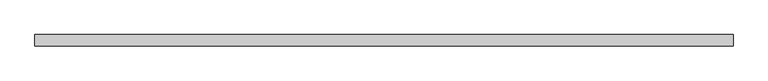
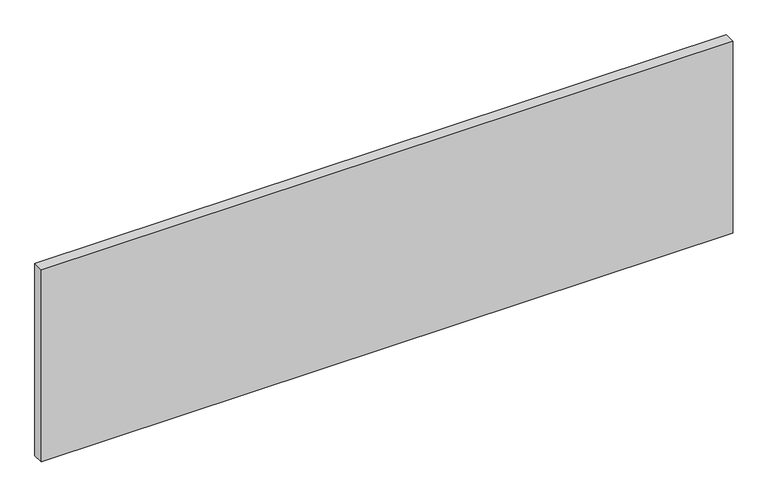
"""IFC4 building model written with IfcOpenShell, lengths in millimetres: plate geometry, Системная панель : ADSK_Cтеклопакет_25 мм."""

from ifc_helpers import new_model, si_unit, origin, origin_with_axes, place, context, project, spatial, polyline, outline, extrude, source, transform, mapped, element, save


def plate_0d3e0286(model_context):
    return source(origin(), model_context, "Body", "SweptSolid", [
        extrude(outline(polyline([(775.0, -12.5), (-775.0, -12.5), (-775.0, 12.5), (775.0, 12.5), (775.0, -12.5)])), origin_with_axes(), (0.0, 0.0, 1.0), 455.0),
    ])


if __name__ == "__main__":
    model = new_model("IFC4")
    model_context = context("Model", 3, world=origin())
    ifc_project = project(units=[si_unit("LENGTHUNIT", "METRE", prefix="MILLI")], contexts=[model_context])
    site = spatial("IfcSite", under=ifc_project)
    building = spatial("IfcBuilding", under=site)
    placement = place(None, origin())
    plate_shape = plate_0d3e0286(model_context)
    element("IfcPlate", 1, ObjectType="Системная панель : ADSK_Cтеклопакет_25 мм", at=placement, inside=building, context=model_context, shape_type="MappedRepresentation", body=[
        mapped(plate_shape, transform((0.0, 0.0, 0.0), x_axis=(1.0, 0.0, 0.0), y_axis=(0.0, 1.0, 0.0), z_axis=(0.0, 0.0, 1.0))),
    ])
    save(model, "model.ifc")
